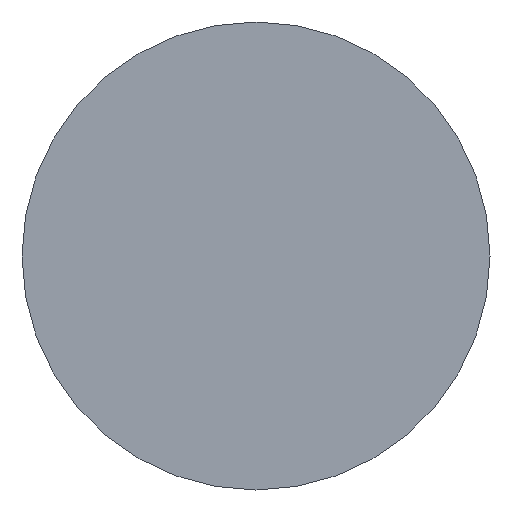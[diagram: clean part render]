
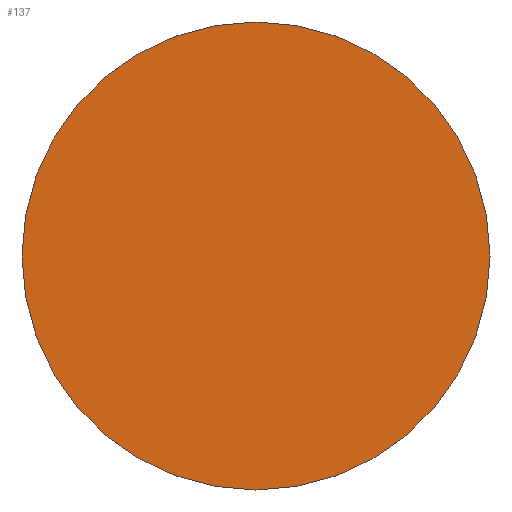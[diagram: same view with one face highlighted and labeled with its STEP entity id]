
A CAD part, front view. The second image highlights one B-rep face of the part: STEP entity #137.
In plain terms, the highlighted planar face has unit normal (0, -1, 0).
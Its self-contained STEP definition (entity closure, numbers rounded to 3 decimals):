
#95 = VERTEX_POINT( '', #197 );
#101 = VERTEX_POINT( '', #203 );
#103 = EDGE_CURVE( '', #101, #95, #205, .T. );
#137 = ADVANCED_FACE( '', ( #245 ), #246, .T. );
#139 = EDGE_CURVE( '', #95, #101, #248, .T. );
#197 = CARTESIAN_POINT( '', ( -12.5, -22., 0. ) );
#203 = CARTESIAN_POINT( '', ( 12.5, -22., 0. ) );
#205 = CIRCLE( '', #317, 12.5 );
#245 = FACE_OUTER_BOUND( '', #363, .T. );
#246 = PLANE( '', #364 );
#248 = CIRCLE( '', #367, 12.5 );
#317 = AXIS2_PLACEMENT_3D( '', #427, #428, #429 );
#363 = EDGE_LOOP( '', ( #481, #482 ) );
#364 = AXIS2_PLACEMENT_3D( '', #483, #484, #485 );
#367 = AXIS2_PLACEMENT_3D( '', #486, #487, #488 );
#427 = CARTESIAN_POINT( '', ( 0., -22., 0. ) );
#428 = DIRECTION( '', ( 0., 1., 0. ) );
#429 = DIRECTION( '', ( 1., 0., 0. ) );
#481 = ORIENTED_EDGE( '', *, *, #103, .F. );
#482 = ORIENTED_EDGE( '', *, *, #139, .F. );
#483 = CARTESIAN_POINT( '', ( 6.25, -22., 0. ) );
#484 = DIRECTION( '', ( 0., -1., 0. ) );
#485 = DIRECTION( '', ( -1., 0., 0. ) );
#486 = CARTESIAN_POINT( '', ( 0., -22., 0. ) );
#487 = DIRECTION( '', ( 0., 1., 0. ) );
#488 = DIRECTION( '', ( 1., 0., 0. ) );
